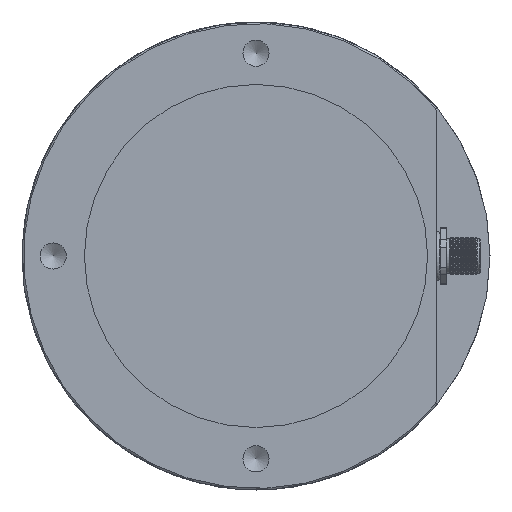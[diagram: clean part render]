
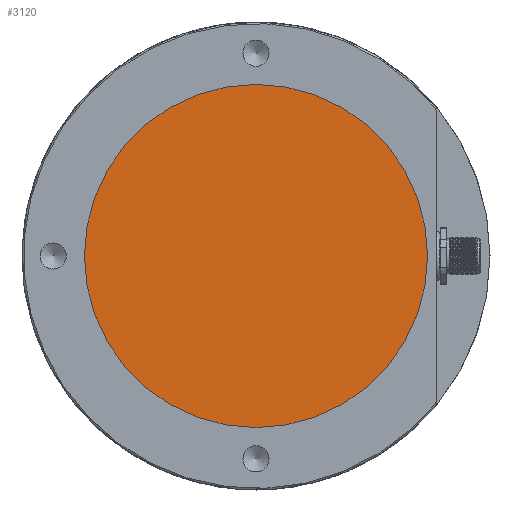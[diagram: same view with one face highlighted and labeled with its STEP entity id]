
A CAD part, left-side view. The second image highlights one B-rep face of the part: STEP entity #3120.
In plain terms, the highlighted planar face has unit normal (-1, 0, 0).
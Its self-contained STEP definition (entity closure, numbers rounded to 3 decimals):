
#400=PLANE('',#3379);
#744=CIRCLE('',#3378,55.);
#919=EDGE_CURVE('',#2482,#2482,#744,.T.);
#1329=ORIENTED_EDGE('',*,*,#919,.T.);
#2116=EDGE_LOOP('',(#1329));
#2482=VERTEX_POINT('',#3770);
#2777=FACE_BOUND('',#2116,.T.);
#3120=ADVANCED_FACE('',(#2777),#400,.F.);
#3378=AXIS2_PLACEMENT_3D('',#3769,#5073,#5074);
#3379=AXIS2_PLACEMENT_3D('',#3771,#5075,$);
#3769=CARTESIAN_POINT('',(-23.,0.,0.));
#3770=CARTESIAN_POINT('',(-23.,0.,-55.));
#3771=CARTESIAN_POINT('',(-23.,0.,0.));
#5073=DIRECTION('',(-1.,0.,0.));
#5074=DIRECTION('',(0.,0.,-55.));
#5075=DIRECTION('',(1.,0.,0.));
